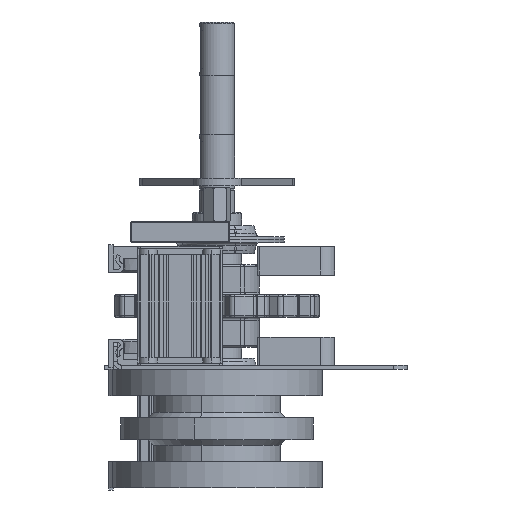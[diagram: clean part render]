
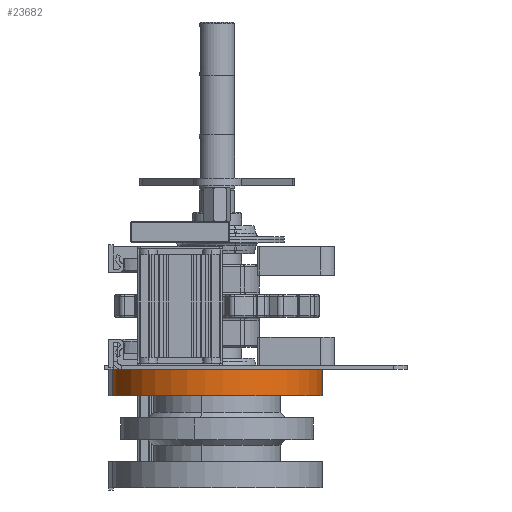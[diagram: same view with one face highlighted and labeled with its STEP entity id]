
A CAD part, left-side view. The second image highlights one B-rep face of the part: STEP entity #23682.
In plain terms, the highlighted cylindrical face has radius 74.75 mm (diameter 149.5 mm), a partial arc.
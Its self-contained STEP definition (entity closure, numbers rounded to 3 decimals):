
#4352 = ORIENTED_EDGE ( 'NONE', *, *, #45320, .F. ) ;
#15115 = EDGE_LOOP ( 'NONE', ( #44108, #44110, #4352, #44107 ) ) ;
#23682 = ADVANCED_FACE ( 'NONE', ( #47450 ), #47473, .T. ) ;
#28094 = AXIS2_PLACEMENT_3D ( 'NONE', #47010, #47012, #47015 ) ;
#28095 = AXIS2_PLACEMENT_3D ( 'NONE', #47027, #47030, #47033 ) ;
#29685 = VERTEX_POINT ( 'NONE', #52529 ) ;
#29821 = VERTEX_POINT ( 'NONE', #52781 ) ;
#29856 = VERTEX_POINT ( 'NONE', #55022 ) ;
#29867 = VERTEX_POINT ( 'NONE', #55033 ) ;
#40041 = AXIS2_PLACEMENT_3D ( 'NONE', #43498, #43497, #43484 ) ;
#43484 = DIRECTION ( 'NONE',  ( 1., 0., 0. ) ) ;
#43497 = DIRECTION ( 'NONE',  ( 0., 0., 1. ) ) ;
#43498 = CARTESIAN_POINT ( 'NONE',  ( -250., 0., -63.5 ) ) ;
#44107 = ORIENTED_EDGE ( 'NONE', *, *, #45499, .T. ) ;
#44108 = ORIENTED_EDGE ( 'NONE', *, *, #45318, .T. ) ;
#44110 = ORIENTED_EDGE ( 'NONE', *, *, #45319, .F. ) ;
#45318 = EDGE_CURVE ( 'NONE', #29821, #29856, #52223, .T. ) ;
#45319 = EDGE_CURVE ( 'NONE', #29685, #29856, #52236, .T. ) ;
#45320 = EDGE_CURVE ( 'NONE', #29867, #29685, #52240, .T. ) ;
#45499 = EDGE_CURVE ( 'NONE', #29867, #29821, #52880, .T. ) ;
#47000 = DIRECTION ( 'NONE',  ( 0., 0., 1. ) ) ;
#47008 = CARTESIAN_POINT ( 'NONE',  ( -257.456, 74.377, -63.5 ) ) ;
#47010 = CARTESIAN_POINT ( 'NONE',  ( -250., 0., -45. ) ) ;
#47012 = DIRECTION ( 'NONE',  ( 0., 0., -1. ) ) ;
#47015 = DIRECTION ( 'NONE',  ( -1., 0., 0. ) ) ;
#47027 = CARTESIAN_POINT ( 'NONE',  ( -250., 0., -63.5 ) ) ;
#47030 = DIRECTION ( 'NONE',  ( 0., 0., -1. ) ) ;
#47033 = DIRECTION ( 'NONE',  ( -1., 0., 0. ) ) ;
#47450 = FACE_OUTER_BOUND ( 'NONE', #15115, .T. ) ;
#47473 = CYLINDRICAL_SURFACE ( 'NONE', #40041, 74.75 ) ;
#49140 = CARTESIAN_POINT ( 'NONE',  ( -249.795, -74.75, -63.5 ) ) ;
#49146 = DIRECTION ( 'NONE',  ( 0., 0., 1. ) ) ;
#52223 = CIRCLE ( 'NONE', #28094, 74.75 ) ;
#52236 = LINE ( 'NONE', #47008, #52244 ) ;
#52240 = CIRCLE ( 'NONE', #28095, 74.75 ) ;
#52244 = VECTOR ( 'NONE', #47000, 1000. ) ;
#52529 = CARTESIAN_POINT ( 'NONE',  ( -257.456, 74.377, -63.5 ) ) ;
#52781 = CARTESIAN_POINT ( 'NONE',  ( -249.795, -74.75, -45. ) ) ;
#52880 = LINE ( 'NONE', #49140, #52885 ) ;
#52885 = VECTOR ( 'NONE', #49146, 1000. ) ;
#55022 = CARTESIAN_POINT ( 'NONE',  ( -257.456, 74.377, -45. ) ) ;
#55033 = CARTESIAN_POINT ( 'NONE',  ( -249.795, -74.75, -63.5 ) ) ;
